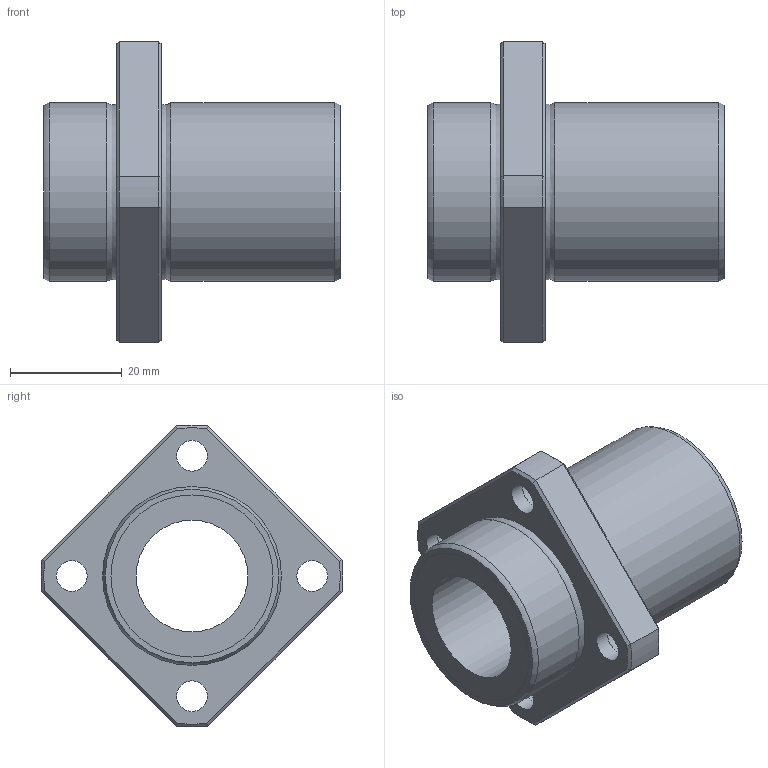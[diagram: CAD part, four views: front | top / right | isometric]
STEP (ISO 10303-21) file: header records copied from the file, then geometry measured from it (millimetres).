
FILE_DESCRIPTION((''),'2;1');
FILE_NAME('C:\Documents and Settings\土屋\My Documents\土屋移動用フォルダ\製品 (図面)\カタログ用3D\変換ファイル\OZAK_3D-CAD(STEP形式)\Part1.-Linear Bearings_ﾘﾆｱﾍﾞｱﾘﾝｸﾞ\09_Maintenance Free_ﾒｲﾝﾃﾅﾝｽﾌﾘｰ\L2017-09-21T13:36:07','2017-09-21T13:36:07',('y'),(''),'Autodesk Inventor 11','Autodesk Inventor 11','');
FILE_SCHEMA(('AUTOMOTIVE_DESIGN { 1 0 10303 214 1 1 1 1 }'));
Length unit declared in the file: millimetre
Products named in the file (1): LFKB-MF
Bounding box: 53 x 53.97 x 53.97 mm (x, y, z)
Volume: 31550.5 mm3; surface area: 12456.9 mm2
Topology: 1 solids, 1 shells, 51 faces, 103 edges, 62 vertices
Faces by surface type: plane 18, bspline 14, cylinder 9, cone 8, torus 2
Full cylindrical faces by diameter (mm): 20 x1, 29 x2, 32 x2
Entity records: 1517 total; most frequent: CARTESIAN_POINT 520, DIRECTION 192, ORIENTED_EDGE 172, EDGE_CURVE 86, EDGE_LOOP 86, AXIS2_PLACEMENT_3D 84, VERTEX_POINT 62, FACE_OUTER_BOUND 51
